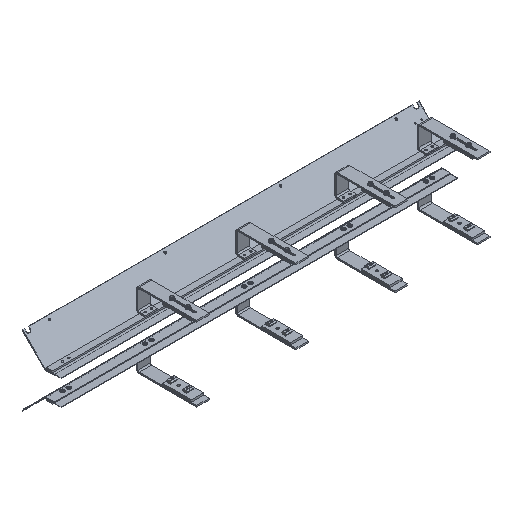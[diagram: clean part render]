
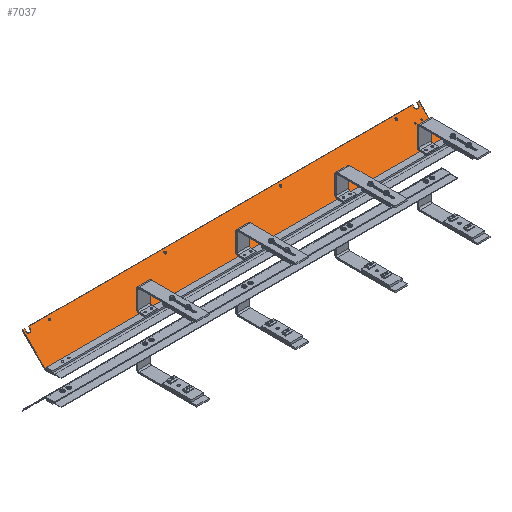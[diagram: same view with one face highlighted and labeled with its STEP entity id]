
A CAD part, isometric view. The second image highlights one B-rep face of the part: STEP entity #7037.
In plain terms, the highlighted planar face has unit normal (0, -0.707, 0.707).
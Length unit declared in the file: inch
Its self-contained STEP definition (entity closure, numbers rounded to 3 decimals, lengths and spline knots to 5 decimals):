
#5916=DIRECTION('',(1.,0.,0.));
#5917=VECTOR('',#5916,48.);
#5918=CARTESIAN_POINT('',(-48.,1.08655,-2.75135));
#5919=LINE('',#5918,#5917);
#6156=CARTESIAN_POINT('',(-47.5,3.65971,-0.17819));
#6157=DIRECTION('',(0.,-0.707,0.707));
#6158=DIRECTION('',(-1.,0.,0.));
#6159=AXIS2_PLACEMENT_3D('',#6156,#6157,#6158);
#6161=DIRECTION('',(0.,0.707,0.707));
#6162=VECTOR('',#6161,0.252);
#6163=CARTESIAN_POINT('',(-47.235,3.65971,-0.17819));
#6164=LINE('',#6163,#6162);
#6165=DIRECTION('',(1.,0.,0.));
#6166=VECTOR('',#6165,46.47);
#6167=CARTESIAN_POINT('',(-47.235,3.8379,0.));
#6168=LINE('',#6167,#6166);
#6169=CARTESIAN_POINT('',(-0.5,3.65971,-0.17819));
#6170=DIRECTION('',(0.,-0.707,0.707));
#6171=DIRECTION('',(-1.,0.,0.));
#6172=AXIS2_PLACEMENT_3D('',#6169,#6170,#6171);
#6174=DIRECTION('',(0.,0.707,0.707));
#6175=VECTOR('',#6174,0.252);
#6176=CARTESIAN_POINT('',(-0.235,3.65971,-0.17819));
#6177=LINE('',#6176,#6175);
#6178=DIRECTION('',(1.,0.,0.));
#6179=VECTOR('',#6178,0.235);
#6180=CARTESIAN_POINT('',(-0.235,3.8379,0.));
#6181=LINE('',#6180,#6179);
#6182=DIRECTION('',(0.,0.707,0.707));
#6183=VECTOR('',#6182,3.891);
#6184=CARTESIAN_POINT('',(-48.,1.08655,-2.75135));
#6185=LINE('',#6184,#6183);
#6186=DIRECTION('',(1.,0.,0.));
#6187=VECTOR('',#6186,0.235);
#6188=CARTESIAN_POINT('',(-48.,3.8379,0.));
#6189=LINE('',#6188,#6187);
#6190=CARTESIAN_POINT('',(-31.,3.57274,-0.26517));
#6191=DIRECTION('',(0.,-0.707,0.707));
#6192=DIRECTION('',(-1.,0.,0.));
#6193=AXIS2_PLACEMENT_3D('',#6190,#6191,#6192);
#6195=CARTESIAN_POINT('',(-31.,3.57274,-0.26517));
#6196=DIRECTION('',(0.,-0.707,0.707));
#6197=DIRECTION('',(1.,0.,0.));
#6198=AXIS2_PLACEMENT_3D('',#6195,#6196,#6197);
#6200=CARTESIAN_POINT('',(-17.,3.57274,-0.26517));
#6201=DIRECTION('',(0.,-0.707,0.707));
#6202=DIRECTION('',(-1.,0.,0.));
#6203=AXIS2_PLACEMENT_3D('',#6200,#6201,#6202);
#6205=CARTESIAN_POINT('',(-17.,3.57274,-0.26517));
#6206=DIRECTION('',(0.,-0.707,0.707));
#6207=DIRECTION('',(1.,0.,0.));
#6208=AXIS2_PLACEMENT_3D('',#6205,#6206,#6207);
#6210=CARTESIAN_POINT('',(-3.,3.57274,-0.26517));
#6211=DIRECTION('',(0.,-0.707,0.707));
#6212=DIRECTION('',(-1.,0.,0.));
#6213=AXIS2_PLACEMENT_3D('',#6210,#6211,#6212);
#6215=CARTESIAN_POINT('',(-3.,3.57274,-0.26517));
#6216=DIRECTION('',(0.,-0.707,0.707));
#6217=DIRECTION('',(1.,0.,0.));
#6218=AXIS2_PLACEMENT_3D('',#6215,#6216,#6217);
#6220=CARTESIAN_POINT('',(-45.,3.57274,-0.26517));
#6221=DIRECTION('',(0.,-0.707,0.707));
#6222=DIRECTION('',(-1.,0.,0.));
#6223=AXIS2_PLACEMENT_3D('',#6220,#6221,#6222);
#6225=CARTESIAN_POINT('',(-45.,3.57274,-0.26517));
#6226=DIRECTION('',(0.,-0.707,0.707));
#6227=DIRECTION('',(1.,0.,0.));
#6228=AXIS2_PLACEMENT_3D('',#6225,#6226,#6227);
#6230=CARTESIAN_POINT('',(-0.75,2.77724,-1.06066));
#6231=DIRECTION('',(0.,-0.707,0.707));
#6232=DIRECTION('',(0.,-0.707,-0.707));
#6233=AXIS2_PLACEMENT_3D('',#6230,#6231,#6232);
#6235=CARTESIAN_POINT('',(-0.75,2.77724,-1.06066));
#6236=DIRECTION('',(0.,-0.707,0.707));
#6237=DIRECTION('',(0.,0.707,0.707));
#6238=AXIS2_PLACEMENT_3D('',#6235,#6236,#6237);
#6240=CARTESIAN_POINT('',(-1.5,2.77724,-1.06066));
#6241=DIRECTION('',(0.,-0.707,0.707));
#6242=DIRECTION('',(0.,-0.707,-0.707));
#6243=AXIS2_PLACEMENT_3D('',#6240,#6241,#6242);
#6245=CARTESIAN_POINT('',(-1.5,2.77724,-1.06066));
#6246=DIRECTION('',(0.,-0.707,0.707));
#6247=DIRECTION('',(0.,0.707,0.707));
#6248=AXIS2_PLACEMENT_3D('',#6245,#6246,#6247);
#6262=DIRECTION('',(0.,0.707,0.707));
#6263=VECTOR('',#6262,0.252);
#6264=CARTESIAN_POINT('',(-0.765,3.65971,-0.17819));
#6265=LINE('',#6264,#6263);
#6294=DIRECTION('',(0.,0.707,0.707));
#6295=VECTOR('',#6294,3.891);
#6296=CARTESIAN_POINT('',(0.,1.08655,-2.75135));
#6297=LINE('',#6296,#6295);
#6314=DIRECTION('',(0.,0.707,0.707));
#6315=VECTOR('',#6314,0.252);
#6316=CARTESIAN_POINT('',(-47.765,3.65971,-0.17819));
#6317=LINE('',#6316,#6315);
#6546=CARTESIAN_POINT('',(0.,1.08655,-2.75135));
#6547=VERTEX_POINT('',#6546);
#6550=CARTESIAN_POINT('',(-48.,1.08655,-2.75135));
#6551=VERTEX_POINT('',#6550);
#6598=CARTESIAN_POINT('',(-47.765,3.65971,-0.17819));
#6599=CARTESIAN_POINT('',(-47.235,3.65971,-0.17819));
#6600=VERTEX_POINT('',#6598);
#6601=VERTEX_POINT('',#6599);
#6602=CARTESIAN_POINT('',(-47.235,3.8379,0.));
#6603=VERTEX_POINT('',#6602);
#6604=CARTESIAN_POINT('',(-0.765,3.8379,0.));
#6605=VERTEX_POINT('',#6604);
#6606=CARTESIAN_POINT('',(-0.765,3.65971,-0.17819));
#6607=VERTEX_POINT('',#6606);
#6608=CARTESIAN_POINT('',(-0.235,3.65971,-0.17819));
#6609=VERTEX_POINT('',#6608);
#6610=CARTESIAN_POINT('',(-0.235,3.8379,0.));
#6611=VERTEX_POINT('',#6610);
#6612=CARTESIAN_POINT('',(0.,3.8379,0.));
#6613=VERTEX_POINT('',#6612);
#6614=CARTESIAN_POINT('',(-48.,3.8379,0.));
#6615=VERTEX_POINT('',#6614);
#6616=CARTESIAN_POINT('',(-47.765,3.8379,0.));
#6617=VERTEX_POINT('',#6616);
#6618=CARTESIAN_POINT('',(-31.11,3.57274,-0.26517));
#6619=CARTESIAN_POINT('',(-30.89,3.57274,-0.26517));
#6620=VERTEX_POINT('',#6618);
#6621=VERTEX_POINT('',#6619);
#6622=CARTESIAN_POINT('',(-17.11,3.57274,-0.26517));
#6623=CARTESIAN_POINT('',(-16.89,3.57274,-0.26517));
#6624=VERTEX_POINT('',#6622);
#6625=VERTEX_POINT('',#6623);
#6626=CARTESIAN_POINT('',(-3.11,3.57274,-0.26517));
#6627=CARTESIAN_POINT('',(-2.89,3.57274,-0.26517));
#6628=VERTEX_POINT('',#6626);
#6629=VERTEX_POINT('',#6627);
#6630=CARTESIAN_POINT('',(-45.11,3.57274,-0.26517));
#6631=CARTESIAN_POINT('',(-44.89,3.57274,-0.26517));
#6632=VERTEX_POINT('',#6630);
#6633=VERTEX_POINT('',#6631);
#6634=CARTESIAN_POINT('',(-0.75,2.73548,-1.10242));
#6635=CARTESIAN_POINT('',(-0.75,2.819,-1.0189));
#6636=VERTEX_POINT('',#6634);
#6637=VERTEX_POINT('',#6635);
#6638=CARTESIAN_POINT('',(-1.5,2.73548,-1.10242));
#6639=CARTESIAN_POINT('',(-1.5,2.819,-1.0189));
#6640=VERTEX_POINT('',#6638);
#6641=VERTEX_POINT('',#6639);
#6972=CARTESIAN_POINT('',(0.,3.8379,0.));
#6973=DIRECTION('',(0.,-0.707,0.707));
#6974=DIRECTION('',(0.,-0.707,-0.707));
#6975=AXIS2_PLACEMENT_3D('',#6972,#6973,#6974);
#6976=PLANE('',#6975);
#6977=ORIENTED_EDGE('',*,*,#6962,.T.);
#6979=ORIENTED_EDGE('',*,*,#6978,.T.);
#6981=ORIENTED_EDGE('',*,*,#6980,.T.);
#6983=ORIENTED_EDGE('',*,*,#6982,.F.);
#6985=ORIENTED_EDGE('',*,*,#6984,.T.);
#6987=ORIENTED_EDGE('',*,*,#6986,.T.);
#6989=ORIENTED_EDGE('',*,*,#6988,.T.);
#6991=ORIENTED_EDGE('',*,*,#6990,.F.);
#6992=ORIENTED_EDGE('',*,*,#6757,.F.);
#6994=ORIENTED_EDGE('',*,*,#6993,.T.);
#6996=ORIENTED_EDGE('',*,*,#6995,.T.);
#6998=ORIENTED_EDGE('',*,*,#6997,.F.);
#6999=EDGE_LOOP('',(#6977,#6979,#6981,#6983,#6985,#6987,#6989,#6991,#6992,#6994,
#6996,#6998));
#7000=FACE_OUTER_BOUND('',#6999,.F.);
#7002=ORIENTED_EDGE('',*,*,#7001,.T.);
#7004=ORIENTED_EDGE('',*,*,#7003,.T.);
#7005=EDGE_LOOP('',(#7002,#7004));
#7006=FACE_BOUND('',#7005,.F.);
#7008=ORIENTED_EDGE('',*,*,#7007,.T.);
#7010=ORIENTED_EDGE('',*,*,#7009,.T.);
#7011=EDGE_LOOP('',(#7008,#7010));
#7012=FACE_BOUND('',#7011,.F.);
#7014=ORIENTED_EDGE('',*,*,#7013,.T.);
#7016=ORIENTED_EDGE('',*,*,#7015,.T.);
#7017=EDGE_LOOP('',(#7014,#7016));
#7018=FACE_BOUND('',#7017,.F.);
#7020=ORIENTED_EDGE('',*,*,#7019,.T.);
#7022=ORIENTED_EDGE('',*,*,#7021,.T.);
#7023=EDGE_LOOP('',(#7020,#7022));
#7024=FACE_BOUND('',#7023,.F.);
#7026=ORIENTED_EDGE('',*,*,#7025,.T.);
#7028=ORIENTED_EDGE('',*,*,#7027,.T.);
#7029=EDGE_LOOP('',(#7026,#7028));
#7030=FACE_BOUND('',#7029,.F.);
#7032=ORIENTED_EDGE('',*,*,#7031,.T.);
#7034=ORIENTED_EDGE('',*,*,#7033,.T.);
#7035=EDGE_LOOP('',(#7032,#7034));
#7036=FACE_BOUND('',#7035,.F.);
#6160=CIRCLE('',#6159,0.265);
#6173=CIRCLE('',#6172,0.265);
#6194=CIRCLE('',#6193,0.11);
#6199=CIRCLE('',#6198,0.11);
#6204=CIRCLE('',#6203,0.11);
#6209=CIRCLE('',#6208,0.11);
#6214=CIRCLE('',#6213,0.11);
#6219=CIRCLE('',#6218,0.11);
#6224=CIRCLE('',#6223,0.11);
#6229=CIRCLE('',#6228,0.11);
#6234=CIRCLE('',#6233,0.05906);
#6239=CIRCLE('',#6238,0.05906);
#6244=CIRCLE('',#6243,0.05906);
#6249=CIRCLE('',#6248,0.05906);
#6757=EDGE_CURVE('',#6551,#6547,#5919,.T.);
#6962=EDGE_CURVE('',#6600,#6601,#6160,.T.);
#6978=EDGE_CURVE('',#6601,#6603,#6164,.T.);
#6980=EDGE_CURVE('',#6603,#6605,#6168,.T.);
#6982=EDGE_CURVE('',#6607,#6605,#6265,.T.);
#6984=EDGE_CURVE('',#6607,#6609,#6173,.T.);
#6986=EDGE_CURVE('',#6609,#6611,#6177,.T.);
#6988=EDGE_CURVE('',#6611,#6613,#6181,.T.);
#6990=EDGE_CURVE('',#6547,#6613,#6297,.T.);
#6993=EDGE_CURVE('',#6551,#6615,#6185,.T.);
#6995=EDGE_CURVE('',#6615,#6617,#6189,.T.);
#6997=EDGE_CURVE('',#6600,#6617,#6317,.T.);
#7001=EDGE_CURVE('',#6620,#6621,#6194,.T.);
#7003=EDGE_CURVE('',#6621,#6620,#6199,.T.);
#7007=EDGE_CURVE('',#6624,#6625,#6204,.T.);
#7009=EDGE_CURVE('',#6625,#6624,#6209,.T.);
#7013=EDGE_CURVE('',#6628,#6629,#6214,.T.);
#7015=EDGE_CURVE('',#6629,#6628,#6219,.T.);
#7019=EDGE_CURVE('',#6632,#6633,#6224,.T.);
#7021=EDGE_CURVE('',#6633,#6632,#6229,.T.);
#7025=EDGE_CURVE('',#6636,#6637,#6234,.T.);
#7027=EDGE_CURVE('',#6637,#6636,#6239,.T.);
#7031=EDGE_CURVE('',#6640,#6641,#6244,.T.);
#7033=EDGE_CURVE('',#6641,#6640,#6249,.T.);
#7037=ADVANCED_FACE('',(#7000,#7006,#7012,#7018,#7024,#7030,#7036),#6976,.T.);
